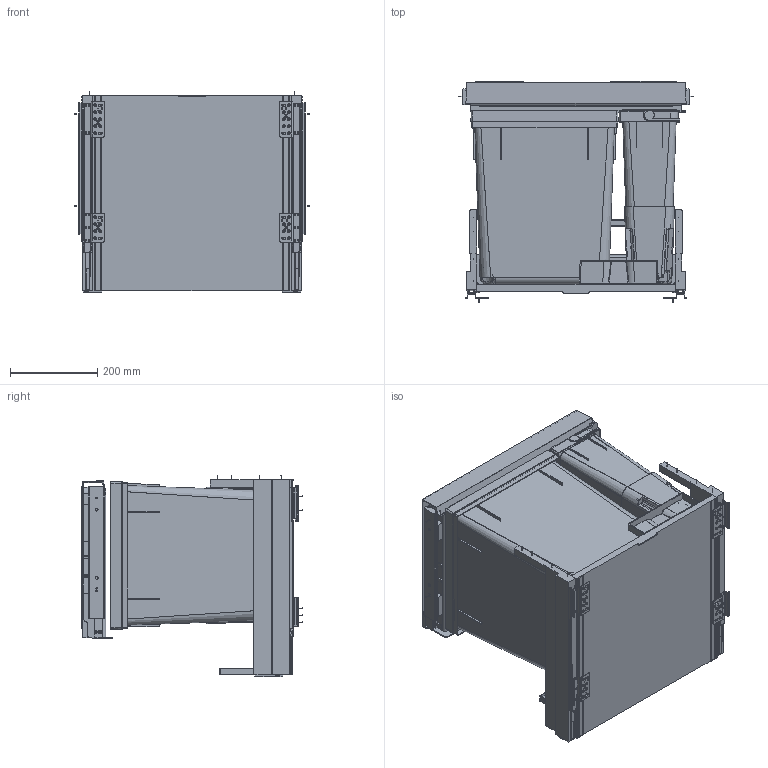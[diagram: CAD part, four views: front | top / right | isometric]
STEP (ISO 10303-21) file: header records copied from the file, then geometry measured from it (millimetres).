
FILE_DESCRIPTION((''),'2;1');
FILE_NAME('X55_L5_PREMIUM_PRO_LIGHT','2024-05-22T17:07:13',('fba'),(''),'CREO PARAMETRIC BY PTC INC, 2022024','CREO PARAMETRIC BY PTC INC, 2022024','');
FILE_SCHEMA(('AUTOMOTIVE_DESIGN { 1 0 10303 214 1 1 1 1 }'));
Products named in the file (17): KOMPLETTAUSZUG_R55_LIGHT; 12244_LIGHT; 12258_LIGHT; 12259_LIGHT; 12247_LIGHT; 12256_LIGHT; 12267_LIGHT; 12270_LIGHT; 12442_LIGHT; 12273_LIGHT; 12260_LIGHT; 12275_LIGHT; 12279_LIGHT; 12282_LIGHT; 12483_LIGHT; 12283_LIGHT; X55_L5_PREMIUM_PRO_LIGHT
Assembly tree (20 placements, depth 3):
  X55_L5_PREMIUM_PRO_LIGHT
    KOMPLETTAUSZUG_R55_LIGHT
    12244_LIGHT
    12258_LIGHT
    12259_LIGHT
    12247_LIGHT
    12256_LIGHT
    12442_LIGHT  x2
      12267_LIGHT
      12270_LIGHT
    12273_LIGHT  x2
    12260_LIGHT  x2
    12275_LIGHT
    12279_LIGHT
    12282_LIGHT
    12483_LIGHT
    12283_LIGHT  x2
Bounding box: 538 x 505 x 461.2 mm (x, y, z)
Volume: 9634328 mm3; surface area: 4591828.2 mm2
Topology: 36 solids, 36 shells, 4140 faces, 10943 edges, 7001 vertices
Faces by surface type: plane 2043, cylinder 1139, bspline 450, cone 140, extrusion 132, torus 128, sphere 108
Entity records: 158085 total; most frequent: CARTESIAN_POINT 55476, ORIENTED_EDGE 19910, DIRECTION 17267, EDGE_CURVE 9955, VERTEX_POINT 6399, VECTOR 6019, LINE 5895, AXIS2_PLACEMENT_3D 5624
